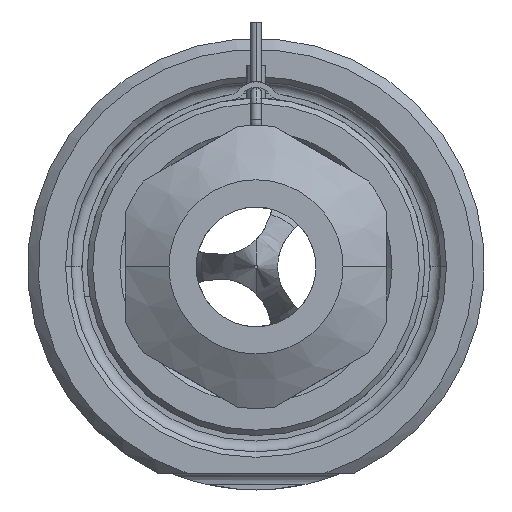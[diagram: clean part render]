
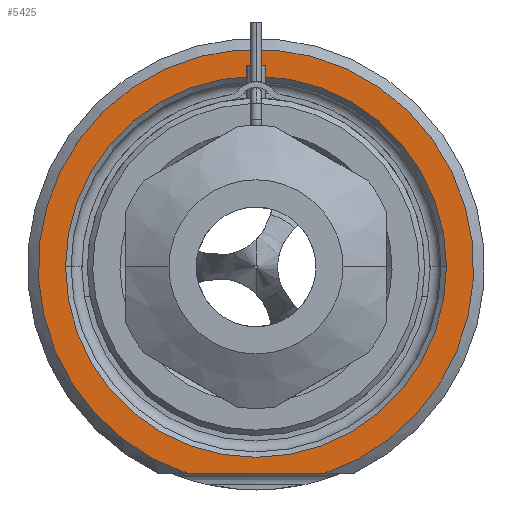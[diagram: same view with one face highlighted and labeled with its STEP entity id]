
A CAD part, front view. The second image highlights one B-rep face of the part: STEP entity #5425.
In plain terms, the highlighted planar face has unit normal (0, -1, 0).
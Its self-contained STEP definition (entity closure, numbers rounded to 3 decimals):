
#1670=DIRECTION('',(1.,0.,0.));
#1671=VECTOR('',#1670,12.49);
#1672=CARTESIAN_POINT('',(-6.245,0.,-19.));
#1673=LINE('',#1672,#1671);
#1674=CARTESIAN_POINT('',(0.,0.,0.));
#1675=DIRECTION('',(0.,1.,0.));
#1676=DIRECTION('',(-1.,0.,0.));
#1677=AXIS2_PLACEMENT_3D('',#1674,#1675,#1676);
#1679=CARTESIAN_POINT('',(0.,0.,0.));
#1680=DIRECTION('',(0.,1.,0.));
#1681=DIRECTION('',(1.,0.,0.));
#1682=AXIS2_PLACEMENT_3D('',#1679,#1680,#1681);
#1788=CARTESIAN_POINT('',(0.,0.,0.));
#1789=DIRECTION('',(0.,-1.,0.));
#1790=DIRECTION('',(0.312,0.,-0.95));
#1791=AXIS2_PLACEMENT_3D('',#1788,#1789,#1790);
#3333=CARTESIAN_POINT('',(-17.5,0.,0.));
#3334=CARTESIAN_POINT('',(17.5,0.,0.));
#3335=VERTEX_POINT('',#3333);
#3336=VERTEX_POINT('',#3334);
#3391=CARTESIAN_POINT('',(-6.245,0.,-19.));
#3392=CARTESIAN_POINT('',(6.245,0.,-19.));
#3393=VERTEX_POINT('',#3391);
#3394=VERTEX_POINT('',#3392);
#5409=CARTESIAN_POINT('',(0.,0.,0.));
#5410=DIRECTION('',(0.,-1.,0.));
#5411=DIRECTION('',(1.,0.,0.));
#5412=AXIS2_PLACEMENT_3D('',#5409,#5410,#5411);
#5413=PLANE('',#5412);
#5415=ORIENTED_EDGE('',*,*,#5414,.F.);
#5417=ORIENTED_EDGE('',*,*,#5416,.F.);
#5418=EDGE_LOOP('',(#5415,#5417));
#5419=FACE_OUTER_BOUND('',#5418,.F.);
#5420=ORIENTED_EDGE('',*,*,#5399,.F.);
#5422=ORIENTED_EDGE('',*,*,#5421,.F.);
#5423=EDGE_LOOP('',(#5420,#5422));
#5424=FACE_BOUND('',#5423,.F.);
#5425=ADVANCED_FACE('',(#5419,#5424),#5413,.T.);
#1678=CIRCLE('',#1677,17.5);
#1683=CIRCLE('',#1682,17.5);
#1792=CIRCLE('',#1791,20.);
#5399=EDGE_CURVE('',#3335,#3336,#1678,.T.);
#5414=EDGE_CURVE('',#3393,#3394,#1673,.T.);
#5416=EDGE_CURVE('',#3394,#3393,#1792,.T.);
#5421=EDGE_CURVE('',#3336,#3335,#1683,.T.);
